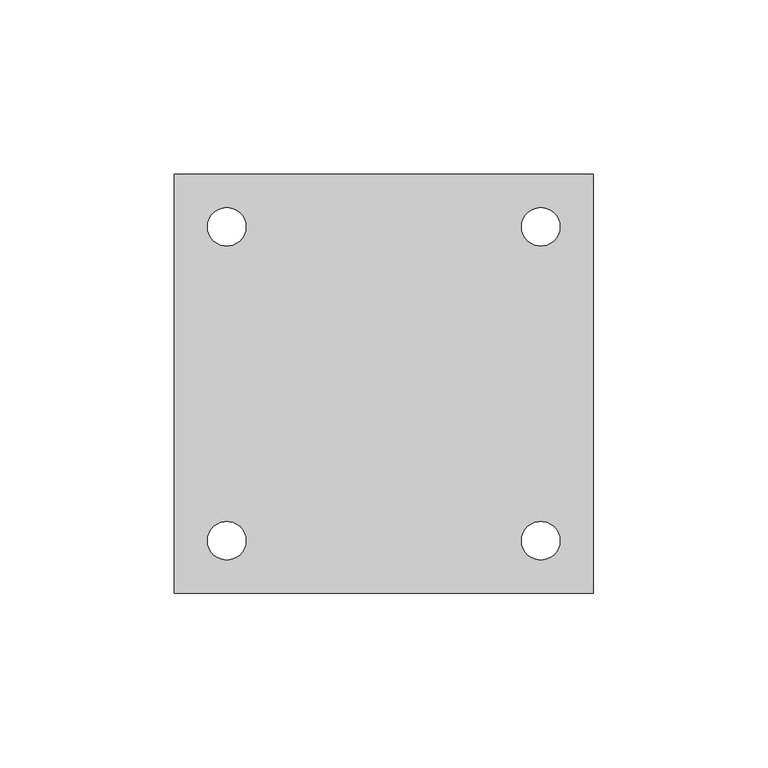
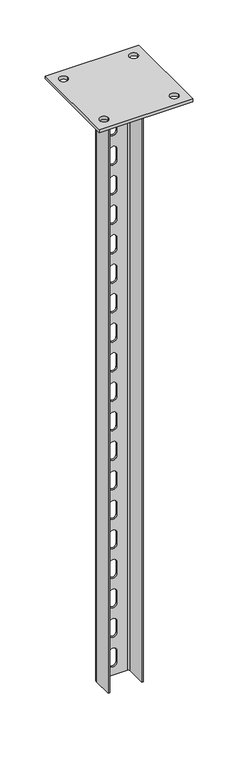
"""IFC4 building model written with IfcOpenShell, lengths in millimetres: proxy geometry, КМ Профиль_Стойка потолочная усиленная PSTU : PSTU800."""

from ifc_helpers import new_model, si_unit, point, frame, frame_2d, origin, place, context, project, spatial, polyline, circle_curve, trimmed, segment, composite_curve, outline, extrude, source, transform, mapped, element, save
from ifc_brep_helpers import plane_surface, cylinder_surface, revolved_surface, advanced_brep


def generic_models_6e2b5e47(model_context):
    return source(origin(), model_context, "Body", "SolidModel", [
        advanced_brep(
        [(22.5, -15.0, -4.0), (22.5, 11.0, -4.0), (18.5, 15.0, -4.0), (-18.5, 15.0, -4.0), (-22.5, 11.0, -4.0), (-22.5, -15.0, -4.0), (-20.5, -15.0, -4.0), (-20.5, 11.0, -4.0), (-18.5, 13.0, -4.0), (18.5, 13.0, -4.0), (20.5, 11.0, -4.0), (20.5, -15.0, -4.0), (22.5, 11.0, -804.0), (22.5, -15.0, -804.0), (20.5, -15.0, -804.0), (20.5, 11.0, -804.0), (18.5, 13.0, -804.0), (-18.5, 13.0, -804.0), (-20.5, 11.0, -804.0), (-20.5, -15.0, -804.0), (-22.5, -15.0, -804.0), (-22.5, 11.0, -804.0), (-18.5, 15.0, -804.0), (18.5, 15.0, -804.0), (-5.0, 15.0, -53.0), (-5.0, 15.0, -68.0), (5.0, 15.0, -68.0), (5.0, 15.0, -53.0), (-5.0, 15.0, -93.0), (-5.0, 15.0, -108.0), (5.0, 15.0, -108.0), (5.0, 15.0, -93.0), (-5.0, 15.0, -133.0), (-5.0, 15.0, -148.0), (5.0, 15.0, -148.0), (5.0, 15.0, -133.0), (-5.0, 15.0, -173.0), (-5.0, 15.0, -188.0), (5.0, 15.0, -188.0), (5.0, 15.0, -173.0), (-5.0, 15.0, -213.0), (-5.0, 15.0, -228.0), (5.0, 15.0, -228.0), (5.0, 15.0, -213.0), (-5.0, 15.0, -253.0), (-5.0, 15.0, -268.0), (5.0, 15.0, -268.0), (5.0, 15.0, -253.0), (-5.0, 15.0, -293.0), (-5.0, 15.0, -308.0), (5.0, 15.0, -308.0), (5.0, 15.0, -293.0), (-5.0, 15.0, -333.0), (-5.0, 15.0, -348.0), (5.0, 15.0, -348.0), (5.0, 15.0, -333.0), (-5.0, 15.0, -373.0), (-5.0, 15.0, -388.0), (5.0, 15.0, -388.0), (5.0, 15.0, -373.0), (-5.0, 15.0, -413.0), (-5.0, 15.0, -428.0), (5.0, 15.0, -428.0), (5.0, 15.0, -413.0), (-5.0, 15.0, -453.0), (-5.0, 15.0, -468.0), (5.0, 15.0, -468.0), (5.0, 15.0, -453.0), (-5.0, 15.0, -493.0), (-5.0, 15.0, -508.0), (5.0, 15.0, -508.0), (5.0, 15.0, -493.0), (-5.0, 15.0, -533.0), (-5.0, 15.0, -548.0), (5.0, 15.0, -548.0), (5.0, 15.0, -533.0), (-5.0, 15.0, -573.0), (-5.0, 15.0, -588.0), (5.0, 15.0, -588.0), (5.0, 15.0, -573.0), (-5.0, 15.0, -613.0), (-5.0, 15.0, -628.0), (5.0, 15.0, -628.0), (5.0, 15.0, -613.0), (-5.0, 15.0, -653.0), (-5.0, 15.0, -668.0), (5.0, 15.0, -668.0), (5.0, 15.0, -653.0), (-5.0, 15.0, -693.0), (-5.0, 15.0, -708.0), (5.0, 15.0, -708.0), (5.0, 15.0, -693.0), (-5.0, 15.0, -733.0), (-5.0, 15.0, -748.0), (5.0, 15.0, -748.0), (5.0, 15.0, -733.0), (-5.0, 15.0, -773.0), (-5.0, 15.0, -788.0), (5.0, 15.0, -788.0), (5.0, 15.0, -773.0), (-5.0, 15.0, -13.0), (-5.0, 15.0, -28.0), (5.0, 15.0, -28.0), (5.0, 15.0, -13.0), (-5.0, 13.0, -68.0), (-5.0, 13.0, -53.0), (5.0, 13.0, -53.0), (5.0, 13.0, -68.0), (-5.0, 13.0, -108.0), (-5.0, 13.0, -93.0), (5.0, 13.0, -93.0), (5.0, 13.0, -108.0), (-5.0, 13.0, -148.0), (-5.0, 13.0, -133.0), (5.0, 13.0, -133.0), (5.0, 13.0, -148.0), (-5.0, 13.0, -188.0), (-5.0, 13.0, -173.0), (5.0, 13.0, -173.0), (5.0, 13.0, -188.0), (-5.0, 13.0, -228.0), (-5.0, 13.0, -213.0), (5.0, 13.0, -213.0), (5.0, 13.0, -228.0), (-5.0, 13.0, -268.0), (-5.0, 13.0, -253.0), (5.0, 13.0, -253.0), (5.0, 13.0, -268.0), (-5.0, 13.0, -308.0), (-5.0, 13.0, -293.0), (5.0, 13.0, -293.0), (5.0, 13.0, -308.0), (-5.0, 13.0, -348.0), (-5.0, 13.0, -333.0), (5.0, 13.0, -333.0), (5.0, 13.0, -348.0), (-5.0, 13.0, -388.0), (-5.0, 13.0, -373.0), (5.0, 13.0, -373.0), (5.0, 13.0, -388.0), (-5.0, 13.0, -428.0), (-5.0, 13.0, -413.0), (5.0, 13.0, -413.0), (5.0, 13.0, -428.0), (-5.0, 13.0, -468.0), (-5.0, 13.0, -453.0), (5.0, 13.0, -453.0), (5.0, 13.0, -468.0), (-5.0, 13.0, -508.0), (-5.0, 13.0, -493.0), (5.0, 13.0, -493.0), (5.0, 13.0, -508.0), (-5.0, 13.0, -548.0), (-5.0, 13.0, -533.0), (5.0, 13.0, -533.0), (5.0, 13.0, -548.0), (-5.0, 13.0, -588.0), (-5.0, 13.0, -573.0), (5.0, 13.0, -573.0), (5.0, 13.0, -588.0), (-5.0, 13.0, -628.0), (-5.0, 13.0, -613.0), (5.0, 13.0, -613.0), (5.0, 13.0, -628.0), (-5.0, 13.0, -668.0), (-5.0, 13.0, -653.0), (5.0, 13.0, -653.0), (5.0, 13.0, -668.0), (-5.0, 13.0, -708.0), (-5.0, 13.0, -693.0), (5.0, 13.0, -693.0), (5.0, 13.0, -708.0), (-5.0, 13.0, -748.0), (-5.0, 13.0, -733.0), (5.0, 13.0, -733.0), (5.0, 13.0, -748.0), (-5.0, 13.0, -788.0), (-5.0, 13.0, -773.0), (5.0, 13.0, -773.0), (5.0, 13.0, -788.0), (-5.0, 13.0, -28.0), (-5.0, 13.0, -13.0), (5.0, 13.0, -13.0), (5.0, 13.0, -28.0)],
        [
            (0, 1),
            (1, 2, circle_curve(frame((18.5, 11.0, -4.0), z_axis=(0.0, 0.0, 1.0), x_axis=(1.0, 0.0, 0.0)), 4.0)),
            (2, 3),
            (3, 4, circle_curve(frame((-18.5, 11.0, -4.0), z_axis=(0.0, 0.0, 1.0), x_axis=(1.0, 0.0, 0.0)), 4.0)),
            (4, 5),
            (5, 6),
            (6, 7),
            (7, 8, circle_curve(frame((-18.5, 11.0, -4.0), z_axis=(0.0, 0.0, -1.0), x_axis=(1.0, 0.0, 0.0)), 2.0)),
            (8, 9),
            (9, 10, circle_curve(frame((18.5, 11.0, -4.0), z_axis=(0.0, 0.0, -1.0), x_axis=(1.0, 0.0, 0.0)), 2.0)),
            (10, 11),
            (11, 0),
            (12, 13),
            (13, 14),
            (14, 15),
            (15, 16, circle_curve(frame((18.5, 11.0, -804.0), z_axis=(0.0, 0.0, 1.0), x_axis=(1.0, 0.0, 0.0)), 2.0)),
            (16, 17),
            (17, 18, circle_curve(frame((-18.5, 11.0, -804.0), z_axis=(0.0, 0.0, 1.0), x_axis=(1.0, 0.0, 0.0)), 2.0)),
            (18, 19),
            (19, 20),
            (20, 21),
            (21, 22, circle_curve(frame((-18.5, 11.0, -804.0), z_axis=(0.0, 0.0, -1.0), x_axis=(1.0, 0.0, 0.0)), 4.0)),
            (22, 23),
            (23, 12, circle_curve(frame((18.5, 11.0, -804.0), z_axis=(0.0, 0.0, -1.0), x_axis=(1.0, 0.0, 0.0)), 4.0)),
            (0, 13),
            (12, 1),
            (23, 2),
            (22, 3),
            (24, 25),
            (25, 26, circle_curve(frame((0.0, 15.0, -68.0), z_axis=(0.0, -1.0, 0.0), x_axis=(0.0, 0.0, -1.0)), 5.0)),
            (26, 27),
            (27, 24, circle_curve(frame((0.0, 15.0, -53.0), z_axis=(0.0, -1.0, 0.0), x_axis=(0.0, 0.0, -1.0)), 5.0)),
            (28, 29),
            (29, 30, circle_curve(frame((0.0, 15.0, -108.0), z_axis=(0.0, -1.0, 0.0), x_axis=(0.0, 0.0, -1.0)), 5.0)),
            (30, 31),
            (31, 28, circle_curve(frame((0.0, 15.0, -93.0), z_axis=(0.0, -1.0, 0.0), x_axis=(0.0, 0.0, -1.0)), 5.0)),
            (32, 33),
            (33, 34, circle_curve(frame((0.0, 15.0, -148.0), z_axis=(0.0, -1.0, 0.0), x_axis=(0.0, 0.0, -1.0)), 5.0)),
            (34, 35),
            (35, 32, circle_curve(frame((0.0, 15.0, -133.0), z_axis=(0.0, -1.0, 0.0), x_axis=(0.0, 0.0, -1.0)), 5.0)),
            (36, 37),
            (37, 38, circle_curve(frame((0.0, 15.0, -188.0), z_axis=(0.0, -1.0, 0.0), x_axis=(0.0, 0.0, -1.0)), 5.0)),
            (38, 39),
            (39, 36, circle_curve(frame((0.0, 15.0, -173.0), z_axis=(0.0, -1.0, 0.0), x_axis=(0.0, 0.0, -1.0)), 5.0)),
            (40, 41),
            (41, 42, circle_curve(frame((0.0, 15.0, -228.0), z_axis=(0.0, -1.0, 0.0), x_axis=(0.0, 0.0, -1.0)), 5.0)),
            (42, 43),
            (43, 40, circle_curve(frame((0.0, 15.0, -213.0), z_axis=(0.0, -1.0, 0.0), x_axis=(0.0, 0.0, -1.0)), 5.0)),
            (44, 45),
            (45, 46, circle_curve(frame((0.0, 15.0, -268.0), z_axis=(0.0, -1.0, 0.0), x_axis=(0.0, 0.0, -1.0)), 5.0)),
            (46, 47),
            (47, 44, circle_curve(frame((0.0, 15.0, -253.0), z_axis=(0.0, -1.0, 0.0), x_axis=(0.0, 0.0, -1.0)), 5.0)),
            (48, 49),
            (49, 50, circle_curve(frame((0.0, 15.0, -308.0), z_axis=(0.0, -1.0, 0.0), x_axis=(0.0, 0.0, -1.0)), 5.0)),
            (50, 51),
            (51, 48, circle_curve(frame((0.0, 15.0, -293.0), z_axis=(0.0, -1.0, 0.0), x_axis=(0.0, 0.0, -1.0)), 5.0)),
            (52, 53),
            (53, 54, circle_curve(frame((0.0, 15.0, -348.0), z_axis=(0.0, -1.0, 0.0), x_axis=(0.0, 0.0, -1.0)), 5.0)),
            (54, 55),
            (55, 52, circle_curve(frame((0.0, 15.0, -333.0), z_axis=(0.0, -1.0, 0.0), x_axis=(0.0, 0.0, -1.0)), 5.0)),
            (56, 57),
            (57, 58, circle_curve(frame((0.0, 15.0, -388.0), z_axis=(0.0, -1.0, 0.0), x_axis=(0.0, 0.0, -1.0)), 5.0)),
            (58, 59),
            (59, 56, circle_curve(frame((0.0, 15.0, -373.0), z_axis=(0.0, -1.0, 0.0), x_axis=(0.0, 0.0, -1.0)), 5.0)),
            (60, 61),
            (61, 62, circle_curve(frame((0.0, 15.0, -428.0), z_axis=(0.0, -1.0, 0.0), x_axis=(0.0, 0.0, -1.0)), 5.0)),
            (62, 63),
            (63, 60, circle_curve(frame((0.0, 15.0, -413.0), z_axis=(0.0, -1.0, 0.0), x_axis=(0.0, 0.0, -1.0)), 5.0)),
            (64, 65),
            (65, 66, circle_curve(frame((0.0, 15.0, -468.0), z_axis=(0.0, -1.0, 0.0), x_axis=(0.0, 0.0, -1.0)), 5.0)),
            (66, 67),
            (67, 64, circle_curve(frame((0.0, 15.0, -453.0), z_axis=(0.0, -1.0, 0.0), x_axis=(0.0, 0.0, -1.0)), 5.0)),
            (68, 69),
            (69, 70, circle_curve(frame((0.0, 15.0, -508.0), z_axis=(0.0, -1.0, 0.0), x_axis=(0.0, 0.0, -1.0)), 5.0)),
            (70, 71),
            (71, 68, circle_curve(frame((0.0, 15.0, -493.0), z_axis=(0.0, -1.0, 0.0), x_axis=(0.0, 0.0, -1.0)), 5.0)),
            (72, 73),
            (73, 74, circle_curve(frame((0.0, 15.0, -548.0), z_axis=(0.0, -1.0, 0.0), x_axis=(0.0, 0.0, -1.0)), 5.0)),
            (74, 75),
            (75, 72, circle_curve(frame((0.0, 15.0, -533.0), z_axis=(0.0, -1.0, 0.0), x_axis=(0.0, 0.0, -1.0)), 5.0)),
            (76, 77),
            (77, 78, circle_curve(frame((0.0, 15.0, -588.0), z_axis=(0.0, -1.0, 0.0), x_axis=(0.0, 0.0, -1.0)), 5.0)),
            (78, 79),
            (79, 76, circle_curve(frame((0.0, 15.0, -573.0), z_axis=(0.0, -1.0, 0.0), x_axis=(0.0, 0.0, -1.0)), 5.0)),
            (80, 81),
            (81, 82, circle_curve(frame((0.0, 15.0, -628.0), z_axis=(0.0, -1.0, 0.0), x_axis=(0.0, 0.0, -1.0)), 5.0)),
            (82, 83),
            (83, 80, circle_curve(frame((0.0, 15.0, -613.0), z_axis=(0.0, -1.0, 0.0), x_axis=(0.0, 0.0, -1.0)), 5.0)),
            (84, 85),
            (85, 86, circle_curve(frame((0.0, 15.0, -668.0), z_axis=(0.0, -1.0, 0.0), x_axis=(0.0, 0.0, -1.0)), 5.0)),
            (86, 87),
            (87, 84, circle_curve(frame((0.0, 15.0, -653.0), z_axis=(0.0, -1.0, 0.0), x_axis=(0.0, 0.0, -1.0)), 5.0)),
            (88, 89),
            (89, 90, circle_curve(frame((0.0, 15.0, -708.0), z_axis=(0.0, -1.0, 0.0), x_axis=(0.0, 0.0, -1.0)), 5.0)),
            (90, 91),
            (91, 88, circle_curve(frame((0.0, 15.0, -693.0), z_axis=(0.0, -1.0, 0.0), x_axis=(0.0, 0.0, -1.0)), 5.0)),
            (92, 93),
            (93, 94, circle_curve(frame((0.0, 15.0, -748.0), z_axis=(0.0, -1.0, 0.0), x_axis=(0.0, 0.0, -1.0)), 5.0)),
            (94, 95),
            (95, 92, circle_curve(frame((0.0, 15.0, -733.0), z_axis=(0.0, -1.0, 0.0), x_axis=(0.0, 0.0, -1.0)), 5.0)),
            (96, 97),
            (97, 98, circle_curve(frame((0.0, 15.0, -788.0), z_axis=(0.0, -1.0, 0.0), x_axis=(0.0, 0.0, -1.0)), 5.0)),
            (98, 99),
            (99, 96, circle_curve(frame((0.0, 15.0, -773.0), z_axis=(0.0, -1.0, 0.0), x_axis=(0.0, 0.0, -1.0)), 5.0)),
            (100, 101),
            (101, 102, circle_curve(frame((0.0, 15.0, -28.0), z_axis=(0.0, -1.0, 0.0), x_axis=(0.0, 0.0, -1.0)), 5.0)),
            (102, 103),
            (103, 100, circle_curve(frame((0.0, 15.0, -13.0), z_axis=(0.0, -1.0, 0.0), x_axis=(0.0, 0.0, -1.0)), 5.0)),
            (21, 4),
            (20, 5),
            (19, 6),
            (18, 7),
            (17, 8),
            (16, 9),
            (104, 105),
            (105, 106, circle_curve(frame((0.0, 13.0, -53.0), z_axis=(0.0, 1.0, 0.0), x_axis=(0.0, 0.0, -1.0)), 5.0)),
            (106, 107),
            (107, 104, circle_curve(frame((0.0, 13.0, -68.0), z_axis=(0.0, 1.0, 0.0), x_axis=(0.0, 0.0, -1.0)), 5.0)),
            (108, 109),
            (109, 110, circle_curve(frame((0.0, 13.0, -93.0), z_axis=(0.0, 1.0, 0.0), x_axis=(0.0, 0.0, -1.0)), 5.0)),
            (110, 111),
            (111, 108, circle_curve(frame((0.0, 13.0, -108.0), z_axis=(0.0, 1.0, 0.0), x_axis=(0.0, 0.0, -1.0)), 5.0)),
            (112, 113),
            (113, 114, circle_curve(frame((0.0, 13.0, -133.0), z_axis=(0.0, 1.0, 0.0), x_axis=(0.0, 0.0, -1.0)), 5.0)),
            (114, 115),
            (115, 112, circle_curve(frame((0.0, 13.0, -148.0), z_axis=(0.0, 1.0, 0.0), x_axis=(0.0, 0.0, -1.0)), 5.0)),
            (116, 117),
            (117, 118, circle_curve(frame((0.0, 13.0, -173.0), z_axis=(0.0, 1.0, 0.0), x_axis=(0.0, 0.0, -1.0)), 5.0)),
            (118, 119),
            (119, 116, circle_curve(frame((0.0, 13.0, -188.0), z_axis=(0.0, 1.0, 0.0), x_axis=(0.0, 0.0, -1.0)), 5.0)),
            (120, 121),
            (121, 122, circle_curve(frame((0.0, 13.0, -213.0), z_axis=(0.0, 1.0, 0.0), x_axis=(0.0, 0.0, -1.0)), 5.0)),
            (122, 123),
            (123, 120, circle_curve(frame((0.0, 13.0, -228.0), z_axis=(0.0, 1.0, 0.0), x_axis=(0.0, 0.0, -1.0)), 5.0)),
            (124, 125),
            (125, 126, circle_curve(frame((0.0, 13.0, -253.0), z_axis=(0.0, 1.0, 0.0), x_axis=(0.0, 0.0, -1.0)), 5.0)),
            (126, 127),
            (127, 124, circle_curve(frame((0.0, 13.0, -268.0), z_axis=(0.0, 1.0, 0.0), x_axis=(0.0, 0.0, -1.0)), 5.0)),
            (128, 129),
            (129, 130, circle_curve(frame((0.0, 13.0, -293.0), z_axis=(0.0, 1.0, 0.0), x_axis=(0.0, 0.0, -1.0)), 5.0)),
            (130, 131),
            (131, 128, circle_curve(frame((0.0, 13.0, -308.0), z_axis=(0.0, 1.0, 0.0), x_axis=(0.0, 0.0, -1.0)), 5.0)),
            (132, 133),
            (133, 134, circle_curve(frame((0.0, 13.0, -333.0), z_axis=(0.0, 1.0, 0.0), x_axis=(0.0, 0.0, -1.0)), 5.0)),
            (134, 135),
            (135, 132, circle_curve(frame((0.0, 13.0, -348.0), z_axis=(0.0, 1.0, 0.0), x_axis=(0.0, 0.0, -1.0)), 5.0)),
            (136, 137),
            (137, 138, circle_curve(frame((0.0, 13.0, -373.0), z_axis=(0.0, 1.0, 0.0), x_axis=(0.0, 0.0, -1.0)), 5.0)),
            (138, 139),
            (139, 136, circle_curve(frame((0.0, 13.0, -388.0), z_axis=(0.0, 1.0, 0.0), x_axis=(0.0, 0.0, -1.0)), 5.0)),
            (140, 141),
            (141, 142, circle_curve(frame((0.0, 13.0, -413.0), z_axis=(0.0, 1.0, 0.0), x_axis=(0.0, 0.0, -1.0)), 5.0)),
            (142, 143),
            (143, 140, circle_curve(frame((0.0, 13.0, -428.0), z_axis=(0.0, 1.0, 0.0), x_axis=(0.0, 0.0, -1.0)), 5.0)),
            (144, 145),
            (145, 146, circle_curve(frame((0.0, 13.0, -453.0), z_axis=(0.0, 1.0, 0.0), x_axis=(0.0, 0.0, -1.0)), 5.0)),
            (146, 147),
            (147, 144, circle_curve(frame((0.0, 13.0, -468.0), z_axis=(0.0, 1.0, 0.0), x_axis=(0.0, 0.0, -1.0)), 5.0)),
            (148, 149),
            (149, 150, circle_curve(frame((0.0, 13.0, -493.0), z_axis=(0.0, 1.0, 0.0), x_axis=(0.0, 0.0, -1.0)), 5.0)),
            (150, 151),
            (151, 148, circle_curve(frame((0.0, 13.0, -508.0), z_axis=(0.0, 1.0, 0.0), x_axis=(0.0, 0.0, -1.0)), 5.0)),
            (152, 153),
            (153, 154, circle_curve(frame((0.0, 13.0, -533.0), z_axis=(0.0, 1.0, 0.0), x_axis=(0.0, 0.0, -1.0)), 5.0)),
            (154, 155),
            (155, 152, circle_curve(frame((0.0, 13.0, -548.0), z_axis=(0.0, 1.0, 0.0), x_axis=(0.0, 0.0, -1.0)), 5.0)),
            (156, 157),
            (157, 158, circle_curve(frame((0.0, 13.0, -573.0), z_axis=(0.0, 1.0, 0.0), x_axis=(0.0, 0.0, -1.0)), 5.0)),
            (158, 159),
            (159, 156, circle_curve(frame((0.0, 13.0, -588.0), z_axis=(0.0, 1.0, 0.0), x_axis=(0.0, 0.0, -1.0)), 5.0)),
            (160, 161),
            (161, 162, circle_curve(frame((0.0, 13.0, -613.0), z_axis=(0.0, 1.0, 0.0), x_axis=(0.0, 0.0, -1.0)), 5.0)),
            (162, 163),
            (163, 160, circle_curve(frame((0.0, 13.0, -628.0), z_axis=(0.0, 1.0, 0.0), x_axis=(0.0, 0.0, -1.0)), 5.0)),
            (164, 165),
            (165, 166, circle_curve(frame((0.0, 13.0, -653.0), z_axis=(0.0, 1.0, 0.0), x_axis=(0.0, 0.0, -1.0)), 5.0)),
            (166, 167),
            (167, 164, circle_curve(frame((0.0, 13.0, -668.0), z_axis=(0.0, 1.0, 0.0), x_axis=(0.0, 0.0, -1.0)), 5.0)),
            (168, 169),
            (169, 170, circle_curve(frame((0.0, 13.0, -693.0), z_axis=(0.0, 1.0, 0.0), x_axis=(0.0, 0.0, -1.0)), 5.0)),
            (170, 171),
            (171, 168, circle_curve(frame((0.0, 13.0, -708.0), z_axis=(0.0, 1.0, 0.0), x_axis=(0.0, 0.0, -1.0)), 5.0)),
            (172, 173),
            (173, 174, circle_curve(frame((0.0, 13.0, -733.0), z_axis=(0.0, 1.0, 0.0), x_axis=(0.0, 0.0, -1.0)), 5.0)),
            (174, 175),
            (175, 172, circle_curve(frame((0.0, 13.0, -748.0), z_axis=(0.0, 1.0, 0.0), x_axis=(0.0, 0.0, -1.0)), 5.0)),
            (176, 177),
            (177, 178, circle_curve(frame((0.0, 13.0, -773.0), z_axis=(0.0, 1.0, 0.0), x_axis=(0.0, 0.0, -1.0)), 5.0)),
            (178, 179),
            (179, 176, circle_curve(frame((0.0, 13.0, -788.0), z_axis=(0.0, 1.0, 0.0), x_axis=(0.0, 0.0, -1.0)), 5.0)),
            (180, 181),
            (181, 182, circle_curve(frame((0.0, 13.0, -13.0), z_axis=(0.0, 1.0, 0.0), x_axis=(0.0, 0.0, -1.0)), 5.0)),
            (182, 183),
            (183, 180, circle_curve(frame((0.0, 13.0, -28.0), z_axis=(0.0, 1.0, 0.0), x_axis=(0.0, 0.0, -1.0)), 5.0)),
            (15, 10),
            (14, 11),
            (24, 105),
            (104, 25),
            (27, 106),
            (26, 107),
            (28, 109),
            (108, 29),
            (31, 110),
            (30, 111),
            (32, 113),
            (112, 33),
            (35, 114),
            (34, 115),
            (36, 117),
            (116, 37),
            (39, 118),
            (38, 119),
            (40, 121),
            (120, 41),
            (43, 122),
            (42, 123),
            (44, 125),
            (124, 45),
            (47, 126),
            (46, 127),
            (48, 129),
            (128, 49),
            (51, 130),
            (50, 131),
            (52, 133),
            (132, 53),
            (55, 134),
            (54, 135),
            (56, 137),
            (136, 57),
            (59, 138),
            (58, 139),
            (60, 141),
            (140, 61),
            (63, 142),
            (62, 143),
            (64, 145),
            (144, 65),
            (67, 146),
            (66, 147),
            (68, 149),
            (148, 69),
            (71, 150),
            (70, 151),
            (72, 153),
            (152, 73),
            (75, 154),
            (74, 155),
            (76, 157),
            (156, 77),
            (79, 158),
            (78, 159),
            (80, 161),
            (160, 81),
            (83, 162),
            (82, 163),
            (84, 165),
            (164, 85),
            (87, 166),
            (86, 167),
            (88, 169),
            (168, 89),
            (91, 170),
            (90, 171),
            (92, 173),
            (172, 93),
            (95, 174),
            (94, 175),
            (96, 177),
            (176, 97),
            (99, 178),
            (98, 179),
            (100, 181),
            (180, 101),
            (103, 182),
            (102, 183),
        ],
        [
            plane_surface(frame((22.5, 11.0, -4.0), z_axis=(0.0, 0.0, 1.0), x_axis=(0.0, 1.0, 0.0))),
            plane_surface(frame((22.5, 11.0, -804.0), z_axis=(0.0, 0.0, -1.0), x_axis=(0.0, -1.0, 0.0))),
            plane_surface(frame((22.5, -15.0, -4.0), z_axis=(1.0, 0.0, 0.0), x_axis=(0.0, 0.0, -1.0))),
            cylinder_surface(frame((18.5, 11.0, -804.0), z_axis=(0.0, 0.0, 1.0), x_axis=(1.0, 0.0, 0.0)), 4.0),
            plane_surface(frame((18.5, 15.0, -4.0), z_axis=(0.0, 1.0, 0.0), x_axis=(0.0, 0.0, -1.0))),
            cylinder_surface(frame((-18.5, 11.0, -804.0), z_axis=(0.0, 0.0, 1.0), x_axis=(1.0, 0.0, 0.0)), 4.0),
            plane_surface(frame((-22.5, 11.0, -4.0), z_axis=(-1.0, 0.0, 0.0), x_axis=(0.0, 0.0, -1.0))),
            plane_surface(frame((-22.5, -15.0, -4.0), z_axis=(0.0, -1.0, 0.0), x_axis=(0.0, 0.0, -1.0))),
            plane_surface(frame((-20.5, -15.0, -4.0), z_axis=(1.0, 0.0, 0.0), x_axis=(0.0, 0.0, -1.0))),
            revolved_surface(polyline([(-16.5, 11.0, -804.0), (-16.5, 11.0, -4.0)]), (-18.5, 11.0, -804.0), (0.0, 0.0, -1.0)),
            plane_surface(frame((-18.5, 13.0, -4.0), z_axis=(0.0, -1.0, 0.0), x_axis=(0.0, 0.0, -1.0))),
            revolved_surface(polyline([(20.5, 11.0, -804.0), (20.5, 11.0, -4.0)]), (18.5, 11.0, -804.0), (0.0, 0.0, -1.0)),
            plane_surface(frame((20.5, 11.0, -4.0), z_axis=(-1.0, 0.0, 0.0), x_axis=(0.0, 0.0, -1.0))),
            plane_surface(frame((20.5, -15.0, -4.0), z_axis=(0.0, -1.0, 0.0), x_axis=(0.0, 0.0, -1.0))),
            plane_surface(frame((-5.0, 15.0, -68.0), z_axis=(1.0, 0.0, 0.0), x_axis=(0.0, -1.0, 0.0))),
            revolved_surface(polyline([(0.0, 15.0, -58.0), (0.0, 13.0, -58.0)]), (0.0, 13.0, -53.0), (0.0, 1.0, 0.0)),
            plane_surface(frame((5.0, 15.0, -53.0), z_axis=(-1.0, 0.0, 0.0), x_axis=(0.0, -1.0, 0.0))),
            revolved_surface(polyline([(0.0, 15.0, -73.0), (0.0, 13.0, -73.0)]), (0.0, 13.0, -68.0), (0.0, 1.0, 0.0)),
            plane_surface(frame((-5.0, 15.0, -108.0), z_axis=(1.0, 0.0, 0.0), x_axis=(0.0, -1.0, 0.0))),
            revolved_surface(polyline([(0.0, 15.0, -98.0), (0.0, 13.0, -98.0)]), (0.0, 13.0, -93.0), (0.0, 1.0, 0.0)),
            plane_surface(frame((5.0, 15.0, -93.0), z_axis=(-1.0, 0.0, 0.0), x_axis=(0.0, -1.0, 0.0))),
            revolved_surface(polyline([(0.0, 15.0, -113.0), (0.0, 13.0, -113.0)]), (0.0, 13.0, -108.0), (0.0, 1.0, 0.0)),
            plane_surface(frame((-5.0, 15.0, -148.0), z_axis=(1.0, 0.0, 0.0), x_axis=(0.0, -1.0, 0.0))),
            revolved_surface(polyline([(0.0, 15.0, -138.0), (0.0, 13.0, -138.0)]), (0.0, 13.0, -133.0), (0.0, 1.0, 0.0)),
            plane_surface(frame((5.0, 15.0, -133.0), z_axis=(-1.0, 0.0, 0.0), x_axis=(0.0, -1.0, 0.0))),
            revolved_surface(polyline([(0.0, 15.0, -153.0), (0.0, 13.0, -153.0)]), (0.0, 13.0, -148.0), (0.0, 1.0, 0.0)),
            plane_surface(frame((-5.0, 15.0, -188.0), z_axis=(1.0, 0.0, 0.0), x_axis=(0.0, -1.0, 0.0))),
            revolved_surface(polyline([(0.0, 15.0, -178.0), (0.0, 13.0, -178.0)]), (0.0, 13.0, -173.0), (0.0, 1.0, 0.0)),
            plane_surface(frame((5.0, 15.0, -173.0), z_axis=(-1.0, 0.0, 0.0), x_axis=(0.0, -1.0, 0.0))),
            revolved_surface(polyline([(0.0, 15.0, -193.0), (0.0, 13.0, -193.0)]), (0.0, 13.0, -188.0), (0.0, 1.0, 0.0)),
            plane_surface(frame((-5.0, 15.0, -228.0), z_axis=(1.0, 0.0, 0.0), x_axis=(0.0, -1.0, 0.0))),
            revolved_surface(polyline([(0.0, 15.0, -218.0), (0.0, 13.0, -218.0)]), (0.0, 13.0, -213.0), (0.0, 1.0, 0.0)),
            plane_surface(frame((5.0, 15.0, -213.0), z_axis=(-1.0, 0.0, 0.0), x_axis=(0.0, -1.0, 0.0))),
            revolved_surface(polyline([(0.0, 15.0, -233.0), (0.0, 13.0, -233.0)]), (0.0, 13.0, -228.0), (0.0, 1.0, 0.0)),
            plane_surface(frame((-5.0, 15.0, -268.0), z_axis=(1.0, 0.0, 0.0), x_axis=(0.0, -1.0, 0.0))),
            revolved_surface(polyline([(0.0, 15.0, -258.0), (0.0, 13.0, -258.0)]), (0.0, 13.0, -253.0), (0.0, 1.0, 0.0)),
            plane_surface(frame((5.0, 15.0, -253.0), z_axis=(-1.0, 0.0, 0.0), x_axis=(0.0, -1.0, 0.0))),
            revolved_surface(polyline([(0.0, 15.0, -273.0), (0.0, 13.0, -273.0)]), (0.0, 13.0, -268.0), (0.0, 1.0, 0.0)),
            plane_surface(frame((-5.0, 15.0, -308.0), z_axis=(1.0, 0.0, 0.0), x_axis=(0.0, -1.0, 0.0))),
            revolved_surface(polyline([(0.0, 15.0, -298.0), (0.0, 13.0, -298.0)]), (0.0, 13.0, -293.0), (0.0, 1.0, 0.0)),
            plane_surface(frame((5.0, 15.0, -293.0), z_axis=(-1.0, 0.0, 0.0), x_axis=(0.0, -1.0, 0.0))),
            revolved_surface(polyline([(0.0, 15.0, -313.0), (0.0, 13.0, -313.0)]), (0.0, 13.0, -308.0), (0.0, 1.0, 0.0)),
            plane_surface(frame((-5.0, 15.0, -348.0), z_axis=(1.0, 0.0, 0.0), x_axis=(0.0, -1.0, 0.0))),
            revolved_surface(polyline([(0.0, 15.0, -338.0), (0.0, 13.0, -338.0)]), (0.0, 13.0, -333.0), (0.0, 1.0, 0.0)),
            plane_surface(frame((5.0, 15.0, -333.0), z_axis=(-1.0, 0.0, 0.0), x_axis=(0.0, -1.0, 0.0))),
            revolved_surface(polyline([(0.0, 15.0, -353.0), (0.0, 13.0, -353.0)]), (0.0, 13.0, -348.0), (0.0, 1.0, 0.0)),
            plane_surface(frame((-5.0, 15.0, -388.0), z_axis=(1.0, 0.0, 0.0), x_axis=(0.0, -1.0, 0.0))),
            revolved_surface(polyline([(0.0, 15.0, -378.0), (0.0, 13.0, -378.0)]), (0.0, 13.0, -373.0), (0.0, 1.0, 0.0)),
            plane_surface(frame((5.0, 15.0, -373.0), z_axis=(-1.0, 0.0, 0.0), x_axis=(0.0, -1.0, 0.0))),
            revolved_surface(polyline([(0.0, 15.0, -393.0), (0.0, 13.0, -393.0)]), (0.0, 13.0, -388.0), (0.0, 1.0, 0.0)),
            plane_surface(frame((-5.0, 15.0, -428.0), z_axis=(1.0, 0.0, 0.0), x_axis=(0.0, -1.0, 0.0))),
            revolved_surface(polyline([(0.0, 15.0, -418.0), (0.0, 13.0, -418.0)]), (0.0, 13.0, -413.0), (0.0, 1.0, 0.0)),
            plane_surface(frame((5.0, 15.0, -413.0), z_axis=(-1.0, 0.0, 0.0), x_axis=(0.0, -1.0, 0.0))),
            revolved_surface(polyline([(0.0, 15.0, -433.0), (0.0, 13.0, -433.0)]), (0.0, 13.0, -428.0), (0.0, 1.0, 0.0)),
            plane_surface(frame((-5.0, 15.0, -468.0), z_axis=(1.0, 0.0, 0.0), x_axis=(0.0, -1.0, 0.0))),
            revolved_surface(polyline([(0.0, 15.0, -458.0), (0.0, 13.0, -458.0)]), (0.0, 13.0, -453.0), (0.0, 1.0, 0.0)),
            plane_surface(frame((5.0, 15.0, -453.0), z_axis=(-1.0, 0.0, 0.0), x_axis=(0.0, -1.0, 0.0))),
            revolved_surface(polyline([(0.0, 15.0, -473.0), (0.0, 13.0, -473.0)]), (0.0, 13.0, -468.0), (0.0, 1.0, 0.0)),
            plane_surface(frame((-5.0, 15.0, -508.0), z_axis=(1.0, 0.0, 0.0), x_axis=(0.0, -1.0, 0.0))),
            revolved_surface(polyline([(0.0, 15.0, -498.0), (0.0, 13.0, -498.0)]), (0.0, 13.0, -493.0), (0.0, 1.0, 0.0)),
            plane_surface(frame((5.0, 15.0, -493.0), z_axis=(-1.0, 0.0, 0.0), x_axis=(0.0, -1.0, 0.0))),
            revolved_surface(polyline([(0.0, 15.0, -513.0), (0.0, 13.0, -513.0)]), (0.0, 13.0, -508.0), (0.0, 1.0, 0.0)),
            plane_surface(frame((-5.0, 15.0, -548.0), z_axis=(1.0, 0.0, 0.0), x_axis=(0.0, -1.0, 0.0))),
            revolved_surface(polyline([(0.0, 15.0, -538.0), (0.0, 13.0, -538.0)]), (0.0, 13.0, -533.0), (0.0, 1.0, 0.0)),
            plane_surface(frame((5.0, 15.0, -533.0), z_axis=(-1.0, 0.0, 0.0), x_axis=(0.0, -1.0, 0.0))),
            revolved_surface(polyline([(0.0, 15.0, -553.0), (0.0, 13.0, -553.0)]), (0.0, 13.0, -548.0), (0.0, 1.0, 0.0)),
            plane_surface(frame((-5.0, 15.0, -588.0), z_axis=(1.0, 0.0, 0.0), x_axis=(0.0, -1.0, 0.0))),
            revolved_surface(polyline([(0.0, 15.0, -578.0), (0.0, 13.0, -578.0)]), (0.0, 13.0, -573.0), (0.0, 1.0, 0.0)),
            plane_surface(frame((5.0, 15.0, -573.0), z_axis=(-1.0, 0.0, 0.0), x_axis=(0.0, -1.0, 0.0))),
            revolved_surface(polyline([(0.0, 15.0, -593.0), (0.0, 13.0, -593.0)]), (0.0, 13.0, -588.0), (0.0, 1.0, 0.0)),
            plane_surface(frame((-5.0, 15.0, -628.0), z_axis=(1.0, 0.0, 0.0), x_axis=(0.0, -1.0, 0.0))),
            revolved_surface(polyline([(0.0, 15.0, -618.0), (0.0, 13.0, -618.0)]), (0.0, 13.0, -613.0), (0.0, 1.0, 0.0)),
            plane_surface(frame((5.0, 15.0, -613.0), z_axis=(-1.0, 0.0, 0.0), x_axis=(0.0, -1.0, 0.0))),
            revolved_surface(polyline([(0.0, 15.0, -633.0), (0.0, 13.0, -633.0)]), (0.0, 13.0, -628.0), (0.0, 1.0, 0.0)),
            plane_surface(frame((-5.0, 15.0, -668.0), z_axis=(1.0, 0.0, 0.0), x_axis=(0.0, -1.0, 0.0))),
            revolved_surface(polyline([(0.0, 15.0, -658.0), (0.0, 13.0, -658.0)]), (0.0, 13.0, -653.0), (0.0, 1.0, 0.0)),
            plane_surface(frame((5.0, 15.0, -653.0), z_axis=(-1.0, 0.0, 0.0), x_axis=(0.0, -1.0, 0.0))),
            revolved_surface(polyline([(0.0, 15.0, -673.0), (0.0, 13.0, -673.0)]), (0.0, 13.0, -668.0), (0.0, 1.0, 0.0)),
            plane_surface(frame((-5.0, 15.0, -708.0), z_axis=(1.0, 0.0, 0.0), x_axis=(0.0, -1.0, 0.0))),
            revolved_surface(polyline([(0.0, 15.0, -698.0), (0.0, 13.0, -698.0)]), (0.0, 13.0, -693.0), (0.0, 1.0, 0.0)),
            plane_surface(frame((5.0, 15.0, -693.0), z_axis=(-1.0, 0.0, 0.0), x_axis=(0.0, -1.0, 0.0))),
            revolved_surface(polyline([(0.0, 15.0, -713.0), (0.0, 13.0, -713.0)]), (0.0, 13.0, -708.0), (0.0, 1.0, 0.0)),
            plane_surface(frame((-5.0, 15.0, -748.0), z_axis=(1.0, 0.0, 0.0), x_axis=(0.0, -1.0, 0.0))),
            revolved_surface(polyline([(0.0, 15.0, -738.0), (0.0, 13.0, -738.0)]), (0.0, 13.0, -733.0), (0.0, 1.0, 0.0)),
            plane_surface(frame((5.0, 15.0, -733.0), z_axis=(-1.0, 0.0, 0.0), x_axis=(0.0, -1.0, 0.0))),
            revolved_surface(polyline([(0.0, 15.0, -753.0), (0.0, 13.0, -753.0)]), (0.0, 13.0, -748.0), (0.0, 1.0, 0.0)),
            plane_surface(frame((-5.0, 15.0, -788.0), z_axis=(1.0, 0.0, 0.0), x_axis=(0.0, -1.0, 0.0))),
            revolved_surface(polyline([(0.0, 15.0, -778.0), (0.0, 13.0, -778.0)]), (0.0, 13.0, -773.0), (0.0, 1.0, 0.0)),
            plane_surface(frame((5.0, 15.0, -773.0), z_axis=(-1.0, 0.0, 0.0), x_axis=(0.0, -1.0, 0.0))),
            revolved_surface(polyline([(0.0, 15.0, -793.0), (0.0, 13.0, -793.0)]), (0.0, 13.0, -788.0), (0.0, 1.0, 0.0)),
            plane_surface(frame((-5.0, 15.0, -28.0), z_axis=(1.0, 0.0, 0.0), x_axis=(0.0, -1.0, 0.0))),
            revolved_surface(polyline([(0.0, 15.0, -18.0), (0.0, 13.0, -18.0)]), (0.0, 13.0, -13.0), (0.0, 1.0, 0.0)),
            plane_surface(frame((5.0, 15.0, -13.0), z_axis=(-1.0, 0.0, 0.0), x_axis=(0.0, -1.0, 0.0))),
            revolved_surface(polyline([(0.0, 15.0, -33.0), (0.0, 13.0, -33.0)]), (0.0, 13.0, -28.0), (0.0, 1.0, 0.0)),
        ],
        [
            (0, [[1, 2, 3, 4, 5, 6, 7, 8, 9, 10, 11, 12]]),
            (1, [[13, 14, 15, 16, 17, 18, 19, 20, 21, 22, 23, 24]]),
            (2, [[-1, 25, -13, 26]]),
            (3, [[-2, -26, -24, 27]]),
            (4, [[-3, -27, -23, 28], [29, 30, 31, 32], [33, 34, 35, 36], [37, 38, 39, 40], [41, 42, 43, 44], [45, 46, 47, 48], [49, 50, 51, 52], [53, 54, 55, 56], [57, 58, 59, 60], [61, 62, 63, 64], [65, 66, 67, 68], [69, 70, 71, 72], [73, 74, 75, 76], [77, 78, 79, 80], [81, 82, 83, 84], [85, 86, 87, 88], [89, 90, 91, 92], [93, 94, 95, 96], [97, 98, 99, 100], [101, 102, 103, 104], [105, 106, 107, 108]]),
            (5, [[-4, -28, -22, 109]]),
            (6, [[-5, -109, -21, 110]]),
            (7, [[-6, -110, -20, 111]]),
            (8, [[-7, -111, -19, 112]]),
            (9, [[-8, -112, -18, 113]]),
            (10, [[-9, -113, -17, 114], [115, 116, 117, 118], [119, 120, 121, 122], [123, 124, 125, 126], [127, 128, 129, 130], [131, 132, 133, 134], [135, 136, 137, 138], [139, 140, 141, 142], [143, 144, 145, 146], [147, 148, 149, 150], [151, 152, 153, 154], [155, 156, 157, 158], [159, 160, 161, 162], [163, 164, 165, 166], [167, 168, 169, 170], [171, 172, 173, 174], [175, 176, 177, 178], [179, 180, 181, 182], [183, 184, 185, 186], [187, 188, 189, 190], [191, 192, 193, 194]]),
            (11, [[-10, -114, -16, 195]]),
            (12, [[-11, -195, -15, 196]]),
            (13, [[-12, -196, -14, -25]]),
            (14, [[197, -115, 198, -29]]),
            (15, [[-197, -32, 199, -116]]),
            (16, [[-199, -31, 200, -117]]),
            (17, [[-198, -118, -200, -30]]),
            (18, [[201, -119, 202, -33]]),
            (19, [[-201, -36, 203, -120]]),
            (20, [[-203, -35, 204, -121]]),
            (21, [[-202, -122, -204, -34]]),
            (22, [[205, -123, 206, -37]]),
            (23, [[-205, -40, 207, -124]]),
            (24, [[-207, -39, 208, -125]]),
            (25, [[-206, -126, -208, -38]]),
            (26, [[209, -127, 210, -41]]),
            (27, [[-209, -44, 211, -128]]),
            (28, [[-211, -43, 212, -129]]),
            (29, [[-210, -130, -212, -42]]),
            (30, [[213, -131, 214, -45]]),
            (31, [[-213, -48, 215, -132]]),
            (32, [[-215, -47, 216, -133]]),
            (33, [[-214, -134, -216, -46]]),
            (34, [[217, -135, 218, -49]]),
            (35, [[-217, -52, 219, -136]]),
            (36, [[-219, -51, 220, -137]]),
            (37, [[-218, -138, -220, -50]]),
            (38, [[221, -139, 222, -53]]),
            (39, [[-221, -56, 223, -140]]),
            (40, [[-223, -55, 224, -141]]),
            (41, [[-222, -142, -224, -54]]),
            (42, [[225, -143, 226, -57]]),
            (43, [[-225, -60, 227, -144]]),
            (44, [[-227, -59, 228, -145]]),
            (45, [[-226, -146, -228, -58]]),
            (46, [[229, -147, 230, -61]]),
            (47, [[-229, -64, 231, -148]]),
            (48, [[-231, -63, 232, -149]]),
            (49, [[-230, -150, -232, -62]]),
            (50, [[233, -151, 234, -65]]),
            (51, [[-233, -68, 235, -152]]),
            (52, [[-235, -67, 236, -153]]),
            (53, [[-234, -154, -236, -66]]),
            (54, [[237, -155, 238, -69]]),
            (55, [[-237, -72, 239, -156]]),
            (56, [[-239, -71, 240, -157]]),
            (57, [[-238, -158, -240, -70]]),
            (58, [[241, -159, 242, -73]]),
            (59, [[-241, -76, 243, -160]]),
            (60, [[-243, -75, 244, -161]]),
            (61, [[-242, -162, -244, -74]]),
            (62, [[245, -163, 246, -77]]),
            (63, [[-245, -80, 247, -164]]),
            (64, [[-247, -79, 248, -165]]),
            (65, [[-246, -166, -248, -78]]),
            (66, [[249, -167, 250, -81]]),
            (67, [[-249, -84, 251, -168]]),
            (68, [[-251, -83, 252, -169]]),
            (69, [[-250, -170, -252, -82]]),
            (70, [[253, -171, 254, -85]]),
            (71, [[-253, -88, 255, -172]]),
            (72, [[-255, -87, 256, -173]]),
            (73, [[-254, -174, -256, -86]]),
            (74, [[257, -175, 258, -89]]),
            (75, [[-257, -92, 259, -176]]),
            (76, [[-259, -91, 260, -177]]),
            (77, [[-258, -178, -260, -90]]),
            (78, [[261, -179, 262, -93]]),
            (79, [[-261, -96, 263, -180]]),
            (80, [[-263, -95, 264, -181]]),
            (81, [[-262, -182, -264, -94]]),
            (82, [[265, -183, 266, -97]]),
            (83, [[-265, -100, 267, -184]]),
            (84, [[-267, -99, 268, -185]]),
            (85, [[-266, -186, -268, -98]]),
            (86, [[269, -187, 270, -101]]),
            (87, [[-269, -104, 271, -188]]),
            (88, [[-271, -103, 272, -189]]),
            (89, [[-270, -190, -272, -102]]),
            (90, [[273, -191, 274, -105]]),
            (91, [[-273, -108, 275, -192]]),
            (92, [[-275, -107, 276, -193]]),
            (93, [[-274, -194, -276, -106]]),
        ],
    ),
        extrude(outline(polyline([(-60.0, 60.0), (60.0, 60.0), (60.0, -60.0), (-60.0, -60.0), (-60.0, 60.0)]), holes=[composite_curve([segment(trimmed(circle_curve(frame_2d((-45.0, 45.0)), 5.5), [point((-50.5, 45.0))], [point((-39.5, 45.0))], True, "CARTESIAN"), True, "CONTINUOUS"), segment(trimmed(circle_curve(frame_2d((-45.0, 45.0)), 5.5), [point((-39.5, 45.0))], [point((-50.5, 45.0))], True, "CARTESIAN"), True, "CONTINUOUS")], self_intersect=False), composite_curve([segment(trimmed(circle_curve(frame_2d((45.0, 45.0)), 5.5), [point((39.5, 45.0))], [point((50.5, 45.0))], True, "CARTESIAN"), True, "CONTINUOUS"), segment(trimmed(circle_curve(frame_2d((45.0, 45.0)), 5.5), [point((50.5, 45.0))], [point((39.5, 45.0))], True, "CARTESIAN"), True, "CONTINUOUS")], self_intersect=False), composite_curve([segment(trimmed(circle_curve(frame_2d((45.0, -45.0)), 5.5), [point((39.5, -45.0))], [point((50.5, -45.0))], True, "CARTESIAN"), True, "CONTINUOUS"), segment(trimmed(circle_curve(frame_2d((45.0, -45.0)), 5.5), [point((50.5, -45.0))], [point((39.5, -45.0))], True, "CARTESIAN"), True, "CONTINUOUS")], self_intersect=False), composite_curve([segment(trimmed(circle_curve(frame_2d((-45.0, -45.0)), 5.5), [point((-50.5, -45.0))], [point((-39.5, -45.0))], True, "CARTESIAN"), True, "CONTINUOUS"), segment(trimmed(circle_curve(frame_2d((-45.0, -45.0)), 5.5), [point((-39.5, -45.0))], [point((-50.5, -45.0))], True, "CARTESIAN"), True, "CONTINUOUS")], self_intersect=False)]), frame((0.0, 0.0, -4.0), z_axis=(0.0, 0.0, 1.0), x_axis=(1.0, 0.0, 0.0)), (0.0, 0.0, 1.0), 4.0),
    ])


if __name__ == "__main__":
    model = new_model("IFC4")
    model_context = context("Model", 3, world=origin())
    ifc_project = project(units=[si_unit("LENGTHUNIT", "METRE", prefix="MILLI")], contexts=[model_context])
    site = spatial("IfcSite", under=ifc_project)
    building = spatial("IfcBuilding", under=site)
    placement = place(None, origin())
    generic_models_shape = generic_models_6e2b5e47(model_context)
    element("IfcBuildingElementProxy", 1, Name="КМ Профиль_Стойка потолочная усиленная PSTU : PSTU800", ObjectType="КМ Профиль_Стойка потолочная усиленная PSTU : PSTU800", at=placement, inside=building, context=model_context, shape_type="MappedRepresentation", body=[
        mapped(generic_models_shape, transform((0.0, 0.0, 0.0), x_axis=(1.0, 0.0, 0.0), y_axis=(0.0, 1.0, 0.0), z_axis=(0.0, 0.0, 1.0))),
    ])
    save(model, "model.ifc")
